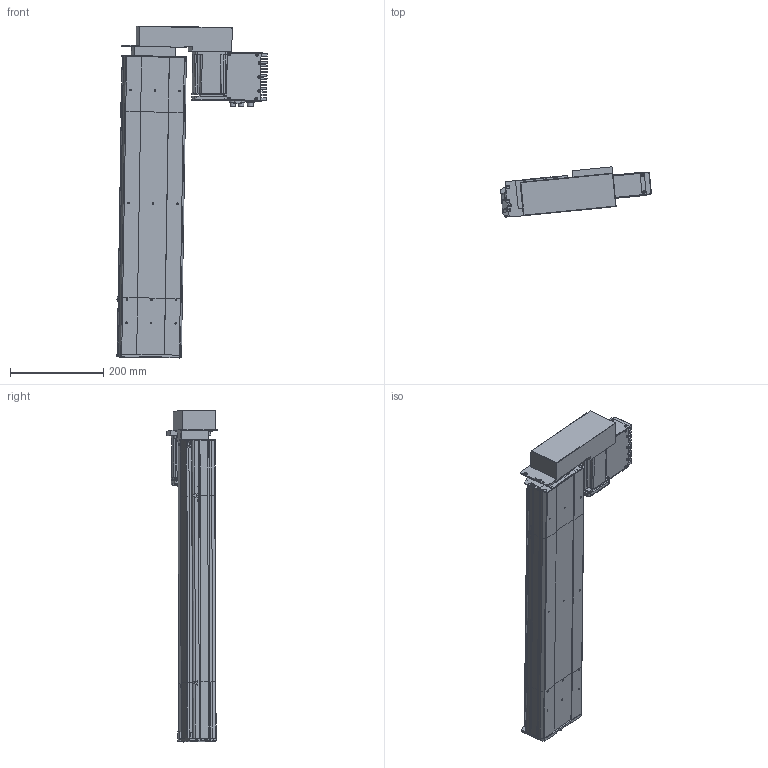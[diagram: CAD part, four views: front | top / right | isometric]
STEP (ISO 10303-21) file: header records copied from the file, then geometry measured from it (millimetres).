
FILE_DESCRIPTION (( 'STEP AP203' ), '1' );
FILE_NAME ('D14 TSH M4 BL L10 S400.STEP', '2012-10-11T07:50:29', ( '' ), ( '' ), 'SwSTEP 2.0', 'SolidWorks 2010', '' );
FILE_SCHEMA (( 'CONFIG_CONTROL_DESIGN' ));
Products named in the file (22): Moteur_2; T犨e contre le moteur_2; Tôle latérale_2; Couvercle_2; Connecteur rond D12 4cts_2; plaque de  bout tail D14_Default_2; Pièce402; D14 TSH M4 BL L10 S400; corp head D14_Default_2; plaque de  bout head D14 MD_Default_2; corpl tail D14_Default_2; Sub D 9cts_2; T犨e fond_2; Connecteur rond D10 3cts_2; Tôle Arrière_2; Moteur 70BLDC90A_2; Colonnette_2; Radiateur_2; Vis TF 3 torkx_2; Pièce400; couvercle D14 head_Default_2; plaque de bout head D14 BL
Assembly tree (49 placements, depth 3):
  D14 TSH M4 BL L10 S400
    couvercle D14 head_Default_2  x2
    plaque de  bout head D14 MD_Default_2
    Moteur_2
      Vis TF 3 torkx_2  x26
      Connecteur rond D10 3cts_2  x2
      Sub D 9cts_2
      Tôle Arrière_2
      Tôle latérale_2  x2
      Colonnette_2
      Couvercle_2
      T犨e contre le moteur_2
      Connecteur rond D12 4cts_2
      Radiateur_2
      Moteur 70BLDC90A_2
      T犨e fond_2
    Pièce400
    Pièce402
    plaque de bout head D14 BL
    corp head D14_Default_2
    plaque de  bout tail D14_Default_2
    corpl tail D14_Default_2
Bounding box: 324.29 x 107.75 x 713.72 mm (x, y, z)
Volume: 3159878.5 mm3; surface area: 915614.6 mm2
Topology: 70 solids, 70 shells, 2406 faces, 6281 edges, 4140 vertices
Faces by surface type: plane 1299, cylinder 843, cone 134, bspline 130
Entity records: 64474 total; most frequent: CARTESIAN_POINT 20823, ORIENTED_EDGE 8520, DIRECTION 8146, EDGE_CURVE 4260, LINE 2848, VECTOR 2848, VERTEX_POINT 2814, AXIS2_PLACEMENT_3D 2649
